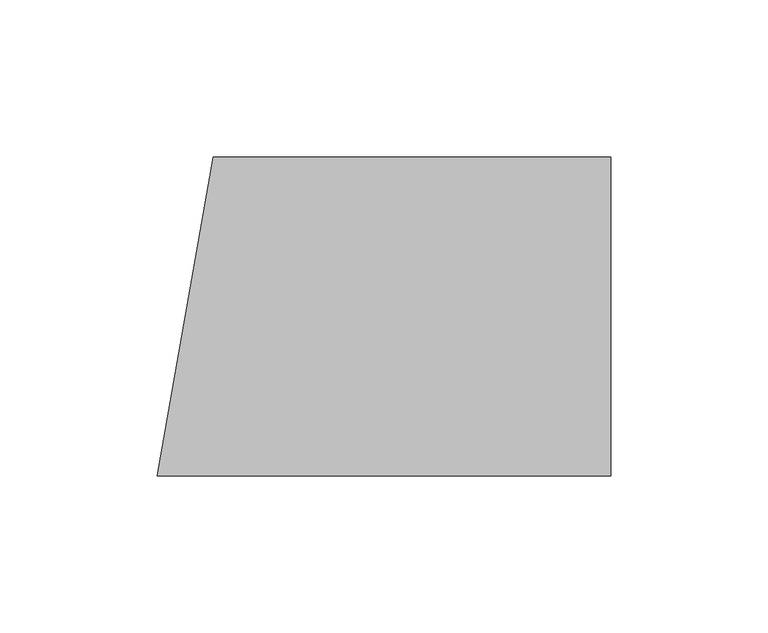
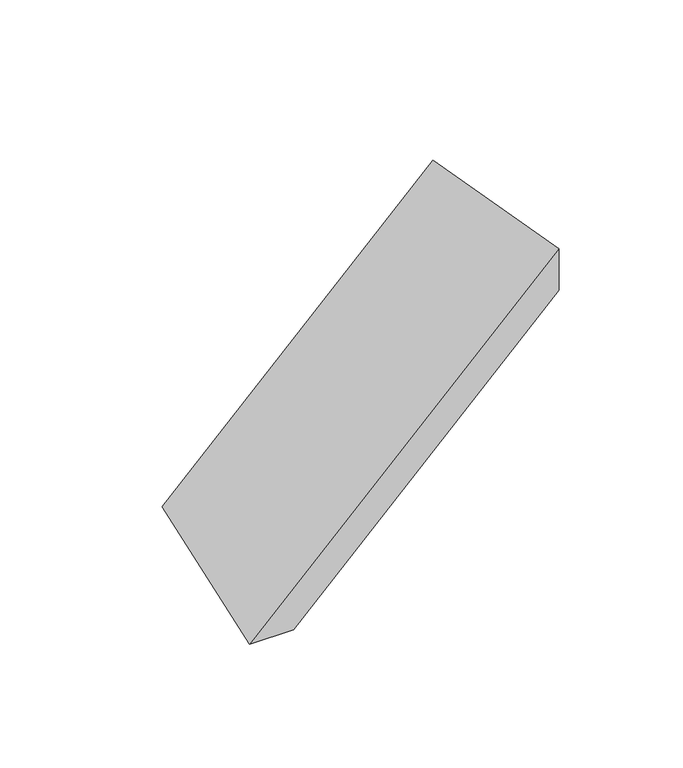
"""IFC4 building model written with IfcOpenShell, lengths in millimetres: proxy geometry, GRADIENT^TABLE 1_OCTAGON LEGS-APRON 1."""

from ifc_helpers import new_model, si_unit, origin, place, context, project, spatial, faceted_brep, source, transform, mapped, element, save


def generic_models_cd42bd1e(model_context):
    return source(origin(), model_context, "Body", "Brep", [
        faceted_brep([(-126.555703, 692.15, 38.1), (-144.4705242, 590.55, 38.1), (0.0, 590.55, 182.5705242), (0.0, 692.15, 164.655703), (0.0, 590.55, 161.9823476), (0.0, 692.15, 144.0675264), (-123.8823476, 590.55, 38.1), (-105.9675264, 692.15, 38.1)], [[[0, 1, 2, 3]], [[3, 2, 4, 5]], [[2, 1, 6, 4]], [[5, 4, 6, 7]], [[1, 0, 7, 6]], [[0, 3, 5, 7]]]),
    ])


if __name__ == "__main__":
    model = new_model("IFC4")
    model_context = context("Model", 3, world=origin())
    ifc_project = project(units=[si_unit("LENGTHUNIT", "METRE", prefix="MILLI")], contexts=[model_context])
    site = spatial("IfcSite", under=ifc_project)
    building = spatial("IfcBuilding", under=site)
    placement = place(None, origin())
    generic_models_shape = generic_models_cd42bd1e(model_context)
    element("IfcBuildingElementProxy", 1, Name="GRADIENT^TABLE 1_OCTAGON LEGS-APRON 1", ObjectType="GRADIENT^TABLE 1_OCTAGON LEGS-APRON 1", at=placement, inside=building, context=model_context, shape_type="MappedRepresentation", body=[
        mapped(generic_models_shape, transform((0.0, 0.0, 0.0), x_axis=(1.0, 0.0, 0.0), y_axis=(0.0, 1.0, 0.0), z_axis=(0.0, 0.0, 1.0))),
    ])
    save(model, "model.ifc")
